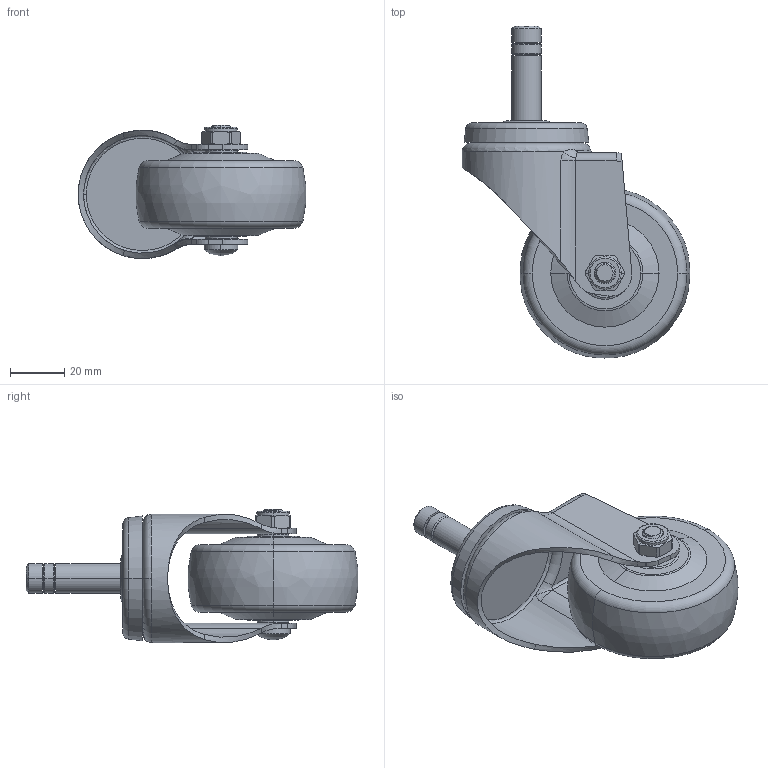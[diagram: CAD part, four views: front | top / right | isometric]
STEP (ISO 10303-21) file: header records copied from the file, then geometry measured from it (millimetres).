
FILE_DESCRIPTION((''),'2;1');
FILE_NAME('361125-3625-64_ASM','2020-01-03T',('L'),(''),'PRO/ENGINEER BY PARAMETRIC TECHNOLOGY CORPORATION, 2010280','PRO/ENGINEER BY PARAMETRIC TECHNOLOGY CORPORATION, 2010280','');
FILE_SCHEMA(('CONFIG_CONTROL_DESIGN'));
Length unit declared in the file: millimetre
Products named in the file (5): 361525; 3625-964; 350-33A; 300-34; 361125-3625-64_ASM
Assembly tree (4 placements, depth 2):
  361125-3625-64_ASM
    361525
    3625-964
    350-33A
    300-34
Bounding box: 84.11 x 122.66 x 49.22 mm (x, y, z)
Volume: 107783.3 mm3; surface area: 31344.1 mm2
Topology: 4 solids, 4 shells, 224 faces, 529 edges, 328 vertices
Faces by surface type: cylinder 78, plane 50, torus 36, bspline 34, cone 24, sphere 2
Entity records: 11192 total; most frequent: CARTESIAN_POINT 6109, ORIENTED_EDGE 1054, DIRECTION 1008, EDGE_CURVE 527, AXIS2_PLACEMENT_3D 422, VERTEX_POINT 328, EDGE_LOOP 249, FACE_OUTER_BOUND 224
